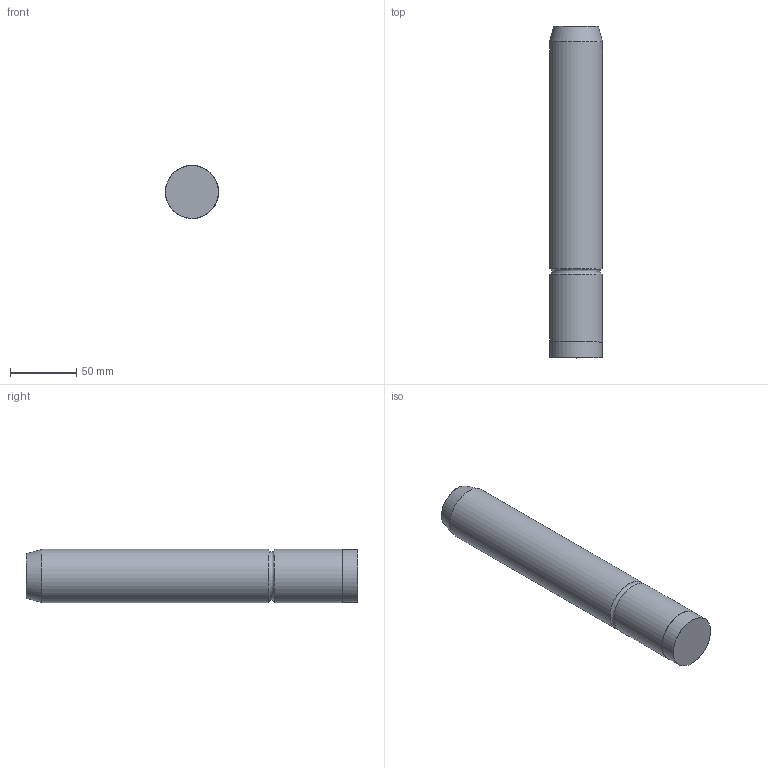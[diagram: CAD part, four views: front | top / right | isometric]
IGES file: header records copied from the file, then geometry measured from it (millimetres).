
Start section: Missler Software BP 521, 31674 Labege Cedex, France Tel   : +33 (0)5 61 00 03 00 Fax   : +33 (0)5 61 00 03 03 Email : sup.topsolid@topsolid.com
Global section: file name: C:\Documents and Settings\EXPER\Desktop\D12\D12_40250.igs; native system: TopSolid v605250 Missler Software; preprocessor: IGES preprocessor v100000; date: 030203.144217; units: millimetre
Bounding box: 40 x 250 x 40 mm (x, y, z)
Surface area: 33784.6 mm2 (no closed solid volume)
Topology: 0 solids, 0 shells, 8 faces, 143 edges, 138 vertices
Faces by surface type: bspline 8
